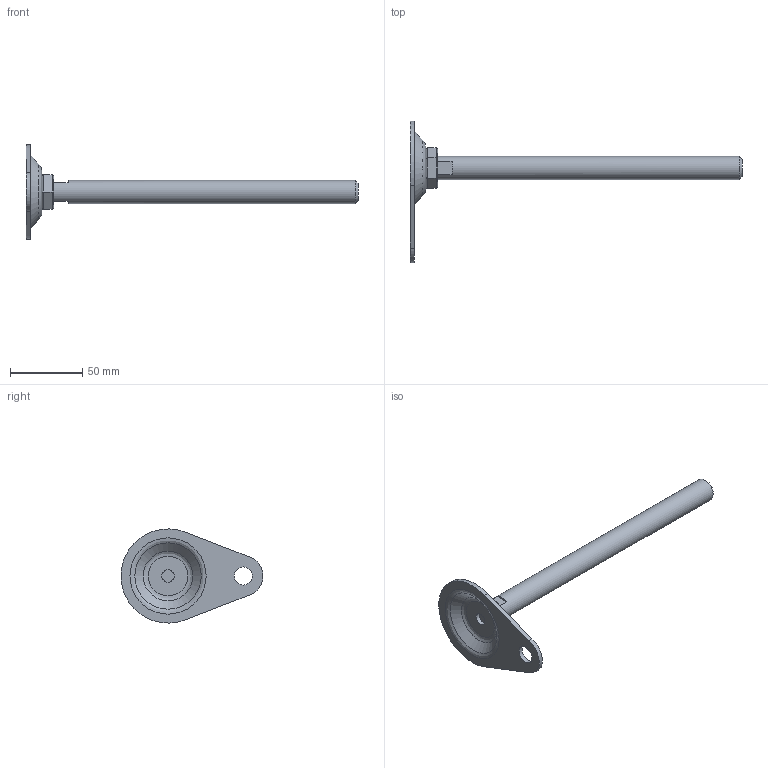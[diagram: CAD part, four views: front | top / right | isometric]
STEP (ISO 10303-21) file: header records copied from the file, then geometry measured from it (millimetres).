
FILE_DESCRIPTION(('STEP AP203'),'2;1');
FILE_NAME('15762.stp','2015-06-30T07:20:17',(''),(''),'2008.1.107','THINKDESIGN','');
FILE_SCHEMA(('CONFIG_CONTROL_DESIGN'));
Length unit declared in the file: millimetre
Bounding box: 229 x 97.83 x 64.96 mm (x, y, z)
Volume: 60150.3 mm3; surface area: 23234.1 mm2
Topology: 3 solids, 3 shells, 49 faces, 118 edges, 80 vertices
Faces by surface type: plane 22, cylinder 18, bspline 9
Full cylindrical faces by diameter (mm): 8.5 x1, 12.5 x1, 14 x1, 16 x1
Entity records: 2189 total; most frequent: CARTESIAN_POINT 849, DIRECTION 236, ORIENTED_EDGE 234, EDGE_CURVE 117, AXIS2_PLACEMENT_3D 90, VERTEX_POINT 78, EDGE_LOOP 59, VECTOR 56
